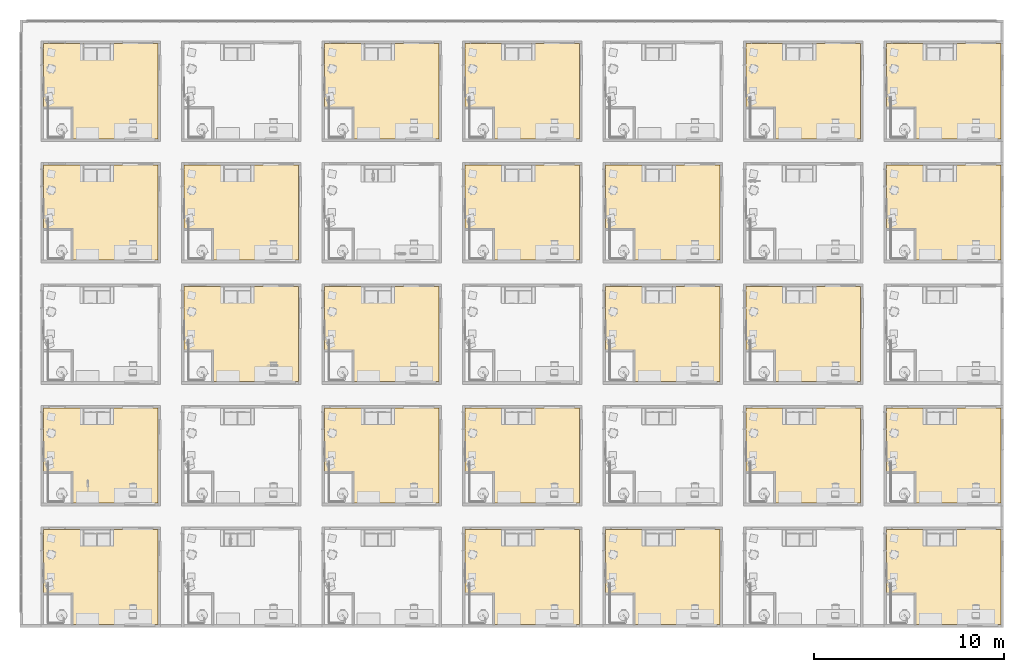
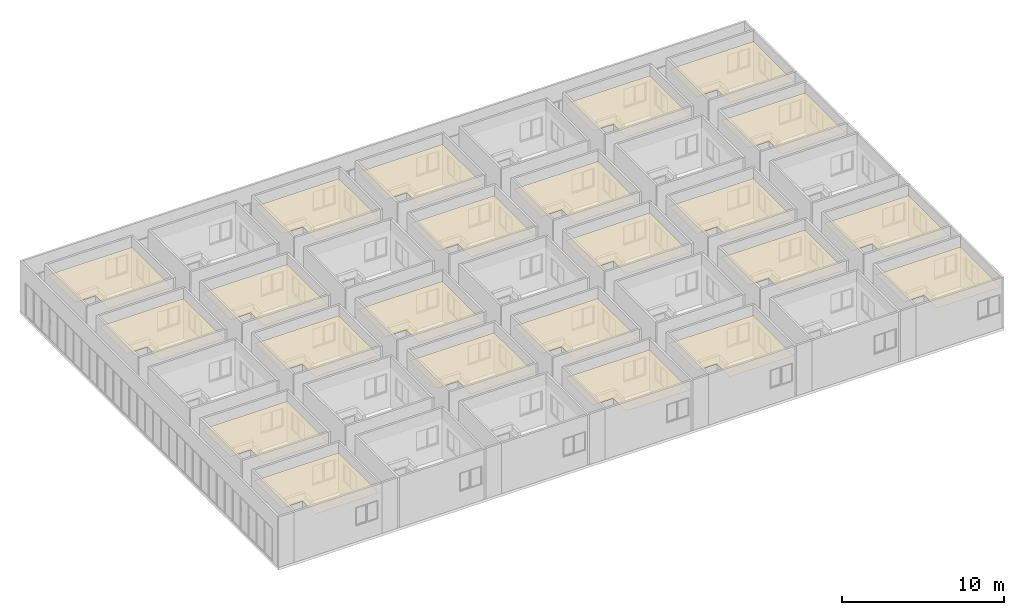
# One storey, part 14 of 71: 23 coverings.
"""IFC4 building model written with IfcOpenShell, lengths in centimetres."""

from ifc_helpers import new_model, entity, si_unit, converted_unit, derived_unit, direction, frame, origin, place, context, subcontext, project, spatial, polygons, type_object, element, save


model = new_model("IFC4")

# Units and contexts
model_context = context("Model", 3, precision=0.001, world=origin(), true_north=direction((6.123233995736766e-17, 1.0)))
body_context = subcontext(model_context, "Body", "Model", "MODEL_VIEW")
ifc_project = project(units=[si_unit("LENGTHUNIT", "METRE", prefix="CENTI"), si_unit("AREAUNIT", "SQUARE_METRE"), si_unit("VOLUMEUNIT", "CUBIC_METRE"), derived_unit("THERMALTRANSMITTANCEUNIT", [(si_unit("MASSUNIT", "GRAM", prefix="KILO"), 1), (si_unit("THERMODYNAMICTEMPERATUREUNIT", "KELVIN"), -1), (si_unit("TIMEUNIT", "SECOND"), -3)]), converted_unit("PLANEANGLEUNIT", "DEGREE", entity("IfcPlaneAngleMeasure", 0.017453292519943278), si_unit("PLANEANGLEUNIT", "RADIAN"), dimensions=[0, 0, 0, 0, 0, 0, 0]), derived_unit("MASSDENSITYUNIT", [(si_unit("MASSUNIT", "GRAM", prefix="KILO"), 1), (si_unit("LENGTHUNIT", "METRE"), -3)]), derived_unit("VAPORPERMEABILITYUNIT", [(si_unit("LENGTHUNIT", "METRE"), -1), (si_unit("TIMEUNIT", "SECOND"), 1)]), derived_unit("USERDEFINED", [(si_unit("MASSUNIT", "GRAM", prefix="KILO"), 1), (si_unit("TIMEUNIT", "SECOND"), -3), (si_unit("LENGTHUNIT", "METRE"), 3), (si_unit("ELECTRICCURRENTUNIT", "AMPERE"), -2)]), derived_unit("SPECIFICHEATCAPACITYUNIT", [(si_unit("THERMODYNAMICTEMPERATUREUNIT", "KELVIN"), -1), (si_unit("LENGTHUNIT", "METRE"), 2), (si_unit("TIMEUNIT", "SECOND"), -2)]), derived_unit("THERMALCONDUCTANCEUNIT", [(si_unit("MASSUNIT", "GRAM", prefix="KILO"), 1), (si_unit("THERMODYNAMICTEMPERATUREUNIT", "KELVIN"), -1), (si_unit("TIMEUNIT", "SECOND"), -3), (si_unit("LENGTHUNIT", "METRE"), 1)]), si_unit("PRESSUREUNIT", "PASCAL"), derived_unit("MODULUSOFELASTICITYUNIT", [(si_unit("MASSUNIT", "GRAM", prefix="KILO"), 1), (si_unit("LENGTHUNIT", "METRE"), -1), (si_unit("TIMEUNIT", "SECOND"), -2)]), derived_unit("THERMALEXPANSIONCOEFFICIENTUNIT", [(si_unit("THERMODYNAMICTEMPERATUREUNIT", "KELVIN"), -1)])], contexts=[model_context])

# Site, building, storey
site_placement = place(None, origin())
site = spatial("IfcSite", under=ifc_project, at=site_placement, Name="Default", CompositionType="ELEMENT")
building_placement = place(site_placement, origin())
building = spatial("IfcBuilding", under=site, at=building_placement, Name="IDS Escape Game Building", CompositionType="ELEMENT")
storey_placement = place(building_placement, frame((0.0, 0.0, 1200.0)))
storey = spatial("IfcBuildingStorey", under=building, at=storey_placement, Name="03_Third Floor", CompositionType="ELEMENT", Elevation=1200.0)

# Coverings
covering_type = type_object("IfcCoveringType", Name="Basic Ceiling:ARC_45_CEI_SB_PLxx_gen_BERSnl", PredefinedType="CEILING")
covering_1_placement = place(storey_placement, frame((7.0, 13.0, 300.0)))
element("IfcCovering", 1, at=covering_1_placement, inside=storey, type_object=covering_type, Name="Basic Ceiling:ARC_45_CEI_SB_PLxx_gen_BERSnl", ObjectType="Basic Ceiling:ARC_45_CEI_SB_PLxx_gen_BERSnl", PredefinedType="CEILING", context=body_context, shape_type="Tessellation", body=[
    polygons([(600.0, 500.0, 0.0), (0.0, 500.0, 0.0), (0.0, 158.00000000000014, 0.0), (144.99999999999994, 158.00000000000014, 0.0), (144.99999999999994, 0.0, 0.0), (600.0, 0.0, 0.0)], [[[1, 2, 3, 4, 5, 6]]], closed=False),
])
for number, where, name in (
    (2, (2221.0, 13.0, 300.0), "Basic Ceiling:ARC_45_CEI_SB_PLxx_gen_BERSnl"),
    (3, (2959.0, 13.0, 300.0), "Basic Ceiling:ARC_45_CEI_SB_PLxx_gen_BERSnl"),
):
    element("IfcCovering", number, at=place(storey_placement, frame(where)), inside=storey, type_object=covering_type, Name=name, ObjectType="Basic Ceiling:ARC_45_CEI_SB_PLxx_gen_BERSnl", PredefinedType="CEILING", context=body_context, shape_type="Tessellation", body=[
        polygons([(600.0000000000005, 500.0, 0.0), (8.662937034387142e-13, 500.0, 0.0), (4.331468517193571e-13, 158.00000000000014, 0.0), (145.00000000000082, 158.00000000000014, 0.0), (145.00000000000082, 0.0, 0.0), (600.0000000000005, 0.0, 0.0)], [[[1, 2, 3, 4, 5, 6]]], closed=False),
    ])
covering_2_placement = place(storey_placement, frame((4435.0, 13.0, 300.0)))
element("IfcCovering", 4, at=covering_2_placement, inside=storey, type_object=covering_type, Name="Basic Ceiling:ARC_45_CEI_SB_PLxx_gen_BERSnl", ObjectType="Basic Ceiling:ARC_45_CEI_SB_PLxx_gen_BERSnl", PredefinedType="CEILING", context=body_context, shape_type="Tessellation", body=[
    polygons([(600.0000000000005, 500.0, 0.0), (0.0, 500.0, 0.0), (0.0, 158.00000000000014, 0.0), (144.99999999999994, 158.00000000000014, 0.0), (144.99999999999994, 0.0, 0.0), (600.0000000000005, 0.0, 0.0)], [[[1, 2, 3, 4, 5, 6]]], closed=False),
])
covering_3_placement = place(storey_placement, frame((7.0, 651.0, 300.0)))
element("IfcCovering", 5, at=covering_3_placement, inside=storey, type_object=covering_type, Name="Basic Ceiling:ARC_45_CEI_SB_PLxx_gen_BERSnl", ObjectType="Basic Ceiling:ARC_45_CEI_SB_PLxx_gen_BERSnl", PredefinedType="CEILING", context=body_context, shape_type="Tessellation", body=[
    polygons([(600.0, 499.99999999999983, 0.0), (0.0, 499.99999999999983, 0.0), (0.0, 157.99999999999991, 0.0), (145.0, 157.99999999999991, 0.0), (145.0, -1.0828671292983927e-13, 0.0), (600.0, -1.0828671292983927e-13, 0.0)], [[[1, 2, 3, 4, 5, 6]]], closed=False),
])
covering_4_placement = place(storey_placement, frame((1483.0, 651.0, 300.0)))
element("IfcCovering", 6, at=covering_4_placement, inside=storey, type_object=covering_type, Name="Basic Ceiling:ARC_45_CEI_SB_PLxx_gen_BERSnl", ObjectType="Basic Ceiling:ARC_45_CEI_SB_PLxx_gen_BERSnl", PredefinedType="CEILING", context=body_context, shape_type="Tessellation", body=[
    polygons([(600.0, 499.99999999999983, 0.0), (0.0, 499.99999999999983, 0.0), (0.0, 157.99999999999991, 0.0), (144.99999999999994, 157.99999999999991, 0.0), (144.99999999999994, -1.0828671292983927e-13, 0.0), (600.0, -1.0828671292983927e-13, 0.0)], [[[1, 2, 3, 4, 5, 6]]], closed=False),
])
covering_5_placement = place(storey_placement, frame((2221.0, 651.0, 300.0)))
element("IfcCovering", 7, at=covering_5_placement, inside=storey, type_object=covering_type, Name="Basic Ceiling:ARC_45_CEI_SB_PLxx_gen_BERSnl", ObjectType="Basic Ceiling:ARC_45_CEI_SB_PLxx_gen_BERSnl", PredefinedType="CEILING", context=body_context, shape_type="Tessellation", body=[
    polygons([(600.0000000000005, 499.99999999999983, 0.0), (8.662937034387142e-13, 499.99999999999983, 0.0), (4.331468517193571e-13, 157.99999999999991, 0.0), (145.00000000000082, 157.99999999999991, 0.0), (145.00000000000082, -1.0828671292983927e-13, 0.0), (600.0000000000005, -1.0828671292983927e-13, 0.0)], [[[1, 2, 3, 4, 5, 6]]], closed=False),
])
for number, where, name in (
    (8, (3697.0, 651.0, 300.0), "Basic Ceiling:ARC_45_CEI_SB_PLxx_gen_BERSnl"),
    (9, (4435.0, 651.0, 300.0), "Basic Ceiling:ARC_45_CEI_SB_PLxx_gen_BERSnl"),
):
    element("IfcCovering", number, at=place(storey_placement, frame(where)), inside=storey, type_object=covering_type, Name=name, ObjectType="Basic Ceiling:ARC_45_CEI_SB_PLxx_gen_BERSnl", PredefinedType="CEILING", context=body_context, shape_type="Tessellation", body=[
        polygons([(600.0000000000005, 499.99999999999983, 0.0), (0.0, 499.99999999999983, 0.0), (0.0, 157.99999999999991, 0.0), (144.99999999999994, 157.99999999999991, 0.0), (144.99999999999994, -1.0828671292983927e-13, 0.0), (600.0000000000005, -1.0828671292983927e-13, 0.0)], [[[1, 2, 3, 4, 5, 6]]], closed=False),
    ])
covering_6_placement = place(storey_placement, frame((745.0, 1289.0, 300.0)))
element("IfcCovering", 10, at=covering_6_placement, inside=storey, type_object=covering_type, Name="Basic Ceiling:ARC_45_CEI_SB_PLxx_gen_BERSnl", ObjectType="Basic Ceiling:ARC_45_CEI_SB_PLxx_gen_BERSnl", PredefinedType="CEILING", context=body_context, shape_type="Tessellation", body=[
    polygons([(600.0, 499.99999999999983, 0.0), (0.0, 499.99999999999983, 0.0), (0.0, 158.00000000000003, 0.0), (144.99999999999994, 158.00000000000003, 0.0), (144.99999999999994, 0.0, 0.0), (600.0, 0.0, 0.0)], [[[1, 2, 3, 4, 5, 6]]], closed=False),
])
covering_7_placement = place(storey_placement, frame((1483.0, 1289.0, 300.0)))
element("IfcCovering", 11, at=covering_7_placement, inside=storey, type_object=covering_type, Name="Basic Ceiling:ARC_45_CEI_SB_PLxx_gen_BERSnl", ObjectType="Basic Ceiling:ARC_45_CEI_SB_PLxx_gen_BERSnl", PredefinedType="CEILING", context=body_context, shape_type="Tessellation", body=[
    polygons([(600.0000000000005, 500.0, 0.0), (2.1657342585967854e-13, 500.0, 0.0), (2.1657342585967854e-13, 158.00000000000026, 0.0), (145.00000000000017, 158.00000000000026, 0.0), (145.00000000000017, 0.0, 0.0), (600.0000000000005, 0.0, 0.0)], [[[1, 2, 3, 4, 5, 6]]], closed=False),
])
covering_8_placement = place(storey_placement, frame((2959.0, 1289.0, 300.0)))
element("IfcCovering", 12, at=covering_8_placement, inside=storey, type_object=covering_type, Name="Basic Ceiling:ARC_45_CEI_SB_PLxx_gen_BERSnl", ObjectType="Basic Ceiling:ARC_45_CEI_SB_PLxx_gen_BERSnl", PredefinedType="CEILING", context=body_context, shape_type="Tessellation", body=[
    polygons([(600.0000000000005, 500.0, 0.0), (8.662937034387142e-13, 500.0, 0.0), (4.331468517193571e-13, 158.00000000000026, 0.0), (145.00000000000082, 158.00000000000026, 0.0), (145.00000000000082, 0.0, 0.0), (600.0000000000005, 0.0, 0.0)], [[[1, 2, 3, 4, 5, 6]]], closed=False),
])
covering_9_placement = place(storey_placement, frame((3697.0, 1289.0, 300.0)))
element("IfcCovering", 13, at=covering_9_placement, inside=storey, type_object=covering_type, Name="Basic Ceiling:ARC_45_CEI_SB_PLxx_gen_BERSnl", ObjectType="Basic Ceiling:ARC_45_CEI_SB_PLxx_gen_BERSnl", PredefinedType="CEILING", context=body_context, shape_type="Tessellation", body=[
    polygons([(600.0000000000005, 500.0, 0.0), (0.0, 500.0, 0.0), (0.0, 158.00000000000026, 0.0), (144.99999999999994, 158.00000000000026, 0.0), (144.99999999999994, 0.0, 0.0), (600.0000000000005, 0.0, 0.0)], [[[1, 2, 3, 4, 5, 6]]], closed=False),
])
for number, where, name in (
    (14, (7.0, 1927.0, 300.0), "Basic Ceiling:ARC_45_CEI_SB_PLxx_gen_BERSnl"),
    (15, (745.0, 1927.0, 300.0), "Basic Ceiling:ARC_45_CEI_SB_PLxx_gen_BERSnl"),
):
    element("IfcCovering", number, at=place(storey_placement, frame(where)), inside=storey, type_object=covering_type, Name=name, ObjectType="Basic Ceiling:ARC_45_CEI_SB_PLxx_gen_BERSnl", PredefinedType="CEILING", context=body_context, shape_type="Tessellation", body=[
        polygons([(600.0, 499.99999999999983, 0.0), (0.0, 499.99999999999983, 0.0), (0.0, 158.00000000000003, 0.0), (144.99999999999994, 158.00000000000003, 0.0), (144.99999999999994, 0.0, 0.0), (600.0, 0.0, 0.0)], [[[1, 2, 3, 4, 5, 6]]], closed=False),
    ])
for number, where, name in (
    (16, (2221.0, 1927.0, 300.0), "Basic Ceiling:ARC_45_CEI_SB_PLxx_gen_BERSnl"),
    (17, (2959.0, 1927.0, 300.0), "Basic Ceiling:ARC_45_CEI_SB_PLxx_gen_BERSnl"),
):
    element("IfcCovering", number, at=place(storey_placement, frame(where)), inside=storey, type_object=covering_type, Name=name, ObjectType="Basic Ceiling:ARC_45_CEI_SB_PLxx_gen_BERSnl", PredefinedType="CEILING", context=body_context, shape_type="Tessellation", body=[
        polygons([(600.0000000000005, 499.99999999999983, 0.0), (8.662937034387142e-13, 499.99999999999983, 0.0), (4.331468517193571e-13, 158.00000000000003, 0.0), (145.00000000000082, 158.00000000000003, 0.0), (145.00000000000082, 0.0, 0.0), (600.0000000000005, 0.0, 0.0)], [[[1, 2, 3, 4, 5, 6]]], closed=False),
    ])
covering_10_placement = place(storey_placement, frame((4435.0, 1927.0, 300.0)))
element("IfcCovering", 18, at=covering_10_placement, inside=storey, type_object=covering_type, Name="Basic Ceiling:ARC_45_CEI_SB_PLxx_gen_BERSnl", ObjectType="Basic Ceiling:ARC_45_CEI_SB_PLxx_gen_BERSnl", PredefinedType="CEILING", context=body_context, shape_type="Tessellation", body=[
    polygons([(600.0000000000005, 499.99999999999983, 0.0), (0.0, 499.99999999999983, 0.0), (0.0, 158.00000000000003, 0.0), (144.99999999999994, 158.00000000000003, 0.0), (144.99999999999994, 0.0, 0.0), (600.0000000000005, 0.0, 0.0)], [[[1, 2, 3, 4, 5, 6]]], closed=False),
])
covering_11_placement = place(storey_placement, frame((7.0, 2565.0, 300.0)))
element("IfcCovering", 19, at=covering_11_placement, inside=storey, type_object=covering_type, Name="Basic Ceiling:ARC_45_CEI_SB_PLxx_gen_BERSnl", ObjectType="Basic Ceiling:ARC_45_CEI_SB_PLxx_gen_BERSnl", PredefinedType="CEILING", context=body_context, shape_type="Tessellation", body=[
    polygons([(600.0, 499.99999999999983, 0.0), (0.0, 499.99999999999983, 0.0), (0.0, 158.00000000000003, 0.0), (144.99999999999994, 158.00000000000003, 0.0), (144.99999999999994, 0.0, 0.0), (600.0, 0.0, 0.0)], [[[1, 2, 3, 4, 5, 6]]], closed=False),
])
covering_12_placement = place(storey_placement, frame((1483.0, 2565.0, 300.0)))
element("IfcCovering", 20, at=covering_12_placement, inside=storey, type_object=covering_type, Name="Basic Ceiling:ARC_45_CEI_SB_PLxx_gen_BERSnl", ObjectType="Basic Ceiling:ARC_45_CEI_SB_PLxx_gen_BERSnl", PredefinedType="CEILING", context=body_context, shape_type="Tessellation", body=[
    polygons([(600.0000000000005, 499.99999999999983, 0.0), (2.1657342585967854e-13, 499.99999999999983, 0.0), (2.1657342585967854e-13, 158.00000000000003, 0.0), (145.00000000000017, 158.00000000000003, 0.0), (145.00000000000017, 0.0, 0.0), (600.0000000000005, 0.0, 0.0)], [[[1, 2, 3, 4, 5, 6]]], closed=False),
])
covering_13_placement = place(storey_placement, frame((2221.0, 2565.0, 300.0)))
element("IfcCovering", 21, at=covering_13_placement, inside=storey, type_object=covering_type, Name="Basic Ceiling:ARC_45_CEI_SB_PLxx_gen_BERSnl", ObjectType="Basic Ceiling:ARC_45_CEI_SB_PLxx_gen_BERSnl", PredefinedType="CEILING", context=body_context, shape_type="Tessellation", body=[
    polygons([(600.0000000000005, 499.99999999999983, 0.0), (8.662937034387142e-13, 499.99999999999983, 0.0), (4.331468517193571e-13, 158.00000000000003, 0.0), (145.00000000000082, 158.00000000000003, 0.0), (145.00000000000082, 0.0, 0.0), (600.0000000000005, 0.0, 0.0)], [[[1, 2, 3, 4, 5, 6]]], closed=False),
])
for number, where, name in (
    (22, (3697.0, 2565.0, 300.0), "Basic Ceiling:ARC_45_CEI_SB_PLxx_gen_BERSnl"),
    (23, (4435.0, 2565.0, 300.0), "Basic Ceiling:ARC_45_CEI_SB_PLxx_gen_BERSnl"),
):
    element("IfcCovering", number, at=place(storey_placement, frame(where)), inside=storey, type_object=covering_type, Name=name, ObjectType="Basic Ceiling:ARC_45_CEI_SB_PLxx_gen_BERSnl", PredefinedType="CEILING", context=body_context, shape_type="Tessellation", body=[
        polygons([(600.0000000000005, 499.99999999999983, 0.0), (0.0, 499.99999999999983, 0.0), (0.0, 158.00000000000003, 0.0), (144.99999999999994, 158.00000000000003, 0.0), (144.99999999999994, 0.0, 0.0), (600.0000000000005, 0.0, 0.0)], [[[1, 2, 3, 4, 5, 6]]], closed=False),
    ])

save(model, "model.ifc")
